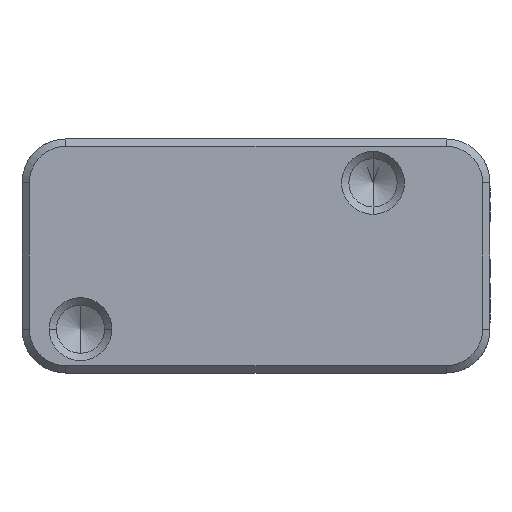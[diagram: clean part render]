
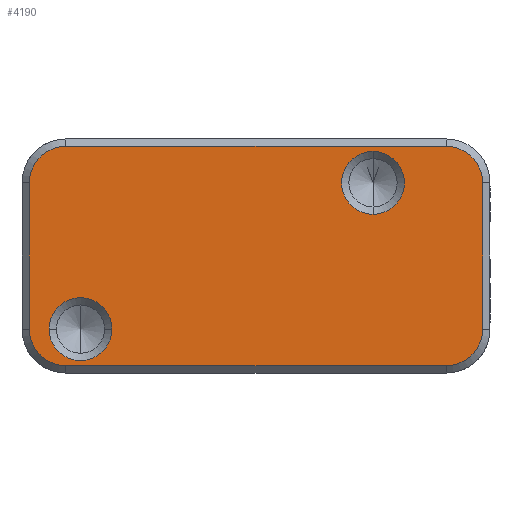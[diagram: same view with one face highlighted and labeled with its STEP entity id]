
A CAD part, front view. The second image highlights one B-rep face of the part: STEP entity #4190.
In plain terms, the highlighted planar face has unit normal (0, -1, 0).
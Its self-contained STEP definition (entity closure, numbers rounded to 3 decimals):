
#11 = CARTESIAN_POINT ( 'NONE',  ( -9.85, 0., -5. ) ) ;
#289 = DIRECTION ( 'NONE',  ( 0., 0., -1. ) ) ;
#321 = CARTESIAN_POINT ( 'NONE',  ( -15.5, 0., -5. ) ) ;
#331 = DIRECTION ( 'NONE',  ( 0., -1., 0. ) ) ;
#463 = AXIS2_PLACEMENT_3D ( 'NONE', #13075, #12024, #2508 ) ;
#467 = VERTEX_POINT ( 'NONE', #11 ) ;
#485 = AXIS2_PLACEMENT_3D ( 'NONE', #5615, #7907, #12216 ) ;
#806 = EDGE_CURVE ( 'NONE', #3098, #13153, #1130, .T. ) ;
#845 = AXIS2_PLACEMENT_3D ( 'NONE', #7372, #11542, #11608 ) ;
#1000 = FACE_BOUND ( 'NONE', #5334, .T. ) ;
#1095 = CIRCLE ( 'NONE', #12627, 2.15 ) ;
#1109 = CARTESIAN_POINT ( 'NONE',  ( 13., 0., 7.5 ) ) ;
#1127 = EDGE_CURVE ( 'NONE', #8837, #467, #4659, .T. ) ;
#1130 = CIRCLE ( 'NONE', #1788, 2.5 ) ;
#1378 = CIRCLE ( 'NONE', #485, 2.5 ) ;
#1407 = CARTESIAN_POINT ( 'NONE',  ( -15.5, 0., 5. ) ) ;
#1435 = VERTEX_POINT ( 'NONE', #4791 ) ;
#1578 = ORIENTED_EDGE ( 'NONE', *, *, #806, .T. ) ;
#1788 = AXIS2_PLACEMENT_3D ( 'NONE', #7614, #331, #11198 ) ;
#1809 = VERTEX_POINT ( 'NONE', #1109 ) ;
#1896 = DIRECTION ( 'NONE',  ( 1., 0., 0. ) ) ;
#2029 = DIRECTION ( 'NONE',  ( 0., 0., -1. ) ) ;
#2046 = CIRCLE ( 'NONE', #5353, 2.15 ) ;
#2197 = DIRECTION ( 'NONE',  ( 0., 1., 0. ) ) ;
#2482 = CARTESIAN_POINT ( 'NONE',  ( 8., 0., 5. ) ) ;
#2500 = ORIENTED_EDGE ( 'NONE', *, *, #10048, .T. ) ;
#2508 = DIRECTION ( 'NONE',  ( 1., 0., 0. ) ) ;
#2563 = LINE ( 'NONE', #2703, #12577 ) ;
#2691 = VERTEX_POINT ( 'NONE', #7086 ) ;
#2703 = CARTESIAN_POINT ( 'NONE',  ( 15.5, 0., -8. ) ) ;
#2862 = DIRECTION ( 'NONE',  ( 0., 0., 1. ) ) ;
#2900 = CARTESIAN_POINT ( 'NONE',  ( 15.5, 0., 5. ) ) ;
#2909 = DIRECTION ( 'NONE',  ( 1., 0., 0. ) ) ;
#3060 = EDGE_LOOP ( 'NONE', ( #12890, #6346 ) ) ;
#3092 = VERTEX_POINT ( 'NONE', #13099 ) ;
#3095 = CARTESIAN_POINT ( 'NONE',  ( -16., 0., 7.5 ) ) ;
#3098 = VERTEX_POINT ( 'NONE', #321 ) ;
#3368 = VERTEX_POINT ( 'NONE', #1407 ) ;
#3528 = CARTESIAN_POINT ( 'NONE',  ( -13., 0., -7.5 ) ) ;
#3778 = EDGE_CURVE ( 'NONE', #3092, #6816, #2563, .T. ) ;
#3966 = CARTESIAN_POINT ( 'NONE',  ( -15.5, 0., -8. ) ) ;
#4037 = DIRECTION ( 'NONE',  ( 0., -1., 0. ) ) ;
#4105 = CARTESIAN_POINT ( 'NONE',  ( -16., 0., -7.5 ) ) ;
#4190 = ADVANCED_FACE ( 'NONE', ( #13569, #13704, #1000 ), #8415, .T. ) ;
#4624 = EDGE_CURVE ( 'NONE', #6816, #1809, #7925, .T. ) ;
#4659 = CIRCLE ( 'NONE', #463, 2.15 ) ;
#4697 = EDGE_CURVE ( 'NONE', #1809, #7250, #13654, .T. ) ;
#4791 = CARTESIAN_POINT ( 'NONE',  ( 8., 0., 2.85 ) ) ;
#4804 = ORIENTED_EDGE ( 'NONE', *, *, #11059, .T. ) ;
#5334 = EDGE_LOOP ( 'NONE', ( #13004, #4804 ) ) ;
#5353 = AXIS2_PLACEMENT_3D ( 'NONE', #7432, #11811, #289 ) ;
#5615 = CARTESIAN_POINT ( 'NONE',  ( -13., 0., 5. ) ) ;
#5663 = DIRECTION ( 'NONE',  ( 0., 0., -1. ) ) ;
#5742 = ORIENTED_EDGE ( 'NONE', *, *, #4697, .T. ) ;
#5928 = AXIS2_PLACEMENT_3D ( 'NONE', #12120, #6831, #11279 ) ;
#6346 = ORIENTED_EDGE ( 'NONE', *, *, #1127, .T. ) ;
#6362 = AXIS2_PLACEMENT_3D ( 'NONE', #10801, #2197, #2909 ) ;
#6507 = DIRECTION ( 'NONE',  ( 0., 1., 0. ) ) ;
#6816 = VERTEX_POINT ( 'NONE', #2900 ) ;
#6831 = DIRECTION ( 'NONE',  ( 0., -1., 0. ) ) ;
#6863 = ORIENTED_EDGE ( 'NONE', *, *, #11161, .F. ) ;
#7086 = CARTESIAN_POINT ( 'NONE',  ( 13., 0., -7.5 ) ) ;
#7228 = LINE ( 'NONE', #3966, #7517 ) ;
#7250 = VERTEX_POINT ( 'NONE', #11490 ) ;
#7372 = CARTESIAN_POINT ( 'NONE',  ( -16., 0., -8. ) ) ;
#7407 = ORIENTED_EDGE ( 'NONE', *, *, #10053, .T. ) ;
#7432 = CARTESIAN_POINT ( 'NONE',  ( 8., 0., 5. ) ) ;
#7454 = EDGE_LOOP ( 'NONE', ( #2500, #8888, #9104, #10156, #5742, #6863, #7407, #1578 ) ) ;
#7517 = VECTOR ( 'NONE', #2029, 1000. ) ;
#7614 = CARTESIAN_POINT ( 'NONE',  ( -13., 0., -5. ) ) ;
#7907 = DIRECTION ( 'NONE',  ( 0., 1., 0. ) ) ;
#7925 = CIRCLE ( 'NONE', #5928, 2.5 ) ;
#8203 = CARTESIAN_POINT ( 'NONE',  ( 13., 0., -5. ) ) ;
#8269 = LINE ( 'NONE', #4105, #10404 ) ;
#8415 = PLANE ( 'NONE',  #845 ) ;
#8837 = VERTEX_POINT ( 'NONE', #12420 ) ;
#8879 = EDGE_CURVE ( 'NONE', #467, #8837, #10362, .T. ) ;
#8888 = ORIENTED_EDGE ( 'NONE', *, *, #10916, .T. ) ;
#9104 = ORIENTED_EDGE ( 'NONE', *, *, #3778, .T. ) ;
#9125 = CIRCLE ( 'NONE', #11572, 2.5 ) ;
#9192 = EDGE_CURVE ( 'NONE', #1435, #11035, #1095, .T. ) ;
#10048 = EDGE_CURVE ( 'NONE', #13153, #2691, #8269, .T. ) ;
#10053 = EDGE_CURVE ( 'NONE', #3368, #3098, #7228, .T. ) ;
#10156 = ORIENTED_EDGE ( 'NONE', *, *, #4624, .T. ) ;
#10362 = CIRCLE ( 'NONE', #6362, 2.15 ) ;
#10404 = VECTOR ( 'NONE', #1896, 1000. ) ;
#10520 = DIRECTION ( 'NONE',  ( -1., 0., 0. ) ) ;
#10767 = CARTESIAN_POINT ( 'NONE',  ( 8., 0., 7.15 ) ) ;
#10801 = CARTESIAN_POINT ( 'NONE',  ( -12., 0., -5. ) ) ;
#10916 = EDGE_CURVE ( 'NONE', #2691, #3092, #9125, .T. ) ;
#11035 = VERTEX_POINT ( 'NONE', #10767 ) ;
#11059 = EDGE_CURVE ( 'NONE', #11035, #1435, #2046, .T. ) ;
#11161 = EDGE_CURVE ( 'NONE', #3368, #7250, #1378, .T. ) ;
#11198 = DIRECTION ( 'NONE',  ( 0., 0., 1. ) ) ;
#11279 = DIRECTION ( 'NONE',  ( 0., 0., 1. ) ) ;
#11490 = CARTESIAN_POINT ( 'NONE',  ( -13., 0., 7.5 ) ) ;
#11542 = DIRECTION ( 'NONE',  ( 0., -1., 0. ) ) ;
#11572 = AXIS2_PLACEMENT_3D ( 'NONE', #8203, #4037, #2862 ) ;
#11608 = DIRECTION ( 'NONE',  ( 0., 0., -1. ) ) ;
#11811 = DIRECTION ( 'NONE',  ( 0., 1., 0. ) ) ;
#12024 = DIRECTION ( 'NONE',  ( 0., 1., 0. ) ) ;
#12120 = CARTESIAN_POINT ( 'NONE',  ( 13., 0., 5. ) ) ;
#12216 = DIRECTION ( 'NONE',  ( 0., 0., 1. ) ) ;
#12420 = CARTESIAN_POINT ( 'NONE',  ( -14.15, 0., -5. ) ) ;
#12577 = VECTOR ( 'NONE', #13268, 1000. ) ;
#12627 = AXIS2_PLACEMENT_3D ( 'NONE', #2482, #6507, #5663 ) ;
#12890 = ORIENTED_EDGE ( 'NONE', *, *, #8879, .T. ) ;
#13004 = ORIENTED_EDGE ( 'NONE', *, *, #9192, .T. ) ;
#13075 = CARTESIAN_POINT ( 'NONE',  ( -12., 0., -5. ) ) ;
#13099 = CARTESIAN_POINT ( 'NONE',  ( 15.5, 0., -5. ) ) ;
#13153 = VERTEX_POINT ( 'NONE', #3528 ) ;
#13262 = VECTOR ( 'NONE', #10520, 1000. ) ;
#13268 = DIRECTION ( 'NONE',  ( 0., 0., 1. ) ) ;
#13569 = FACE_OUTER_BOUND ( 'NONE', #7454, .T. ) ;
#13654 = LINE ( 'NONE', #3095, #13262 ) ;
#13704 = FACE_BOUND ( 'NONE', #3060, .T. ) ;
